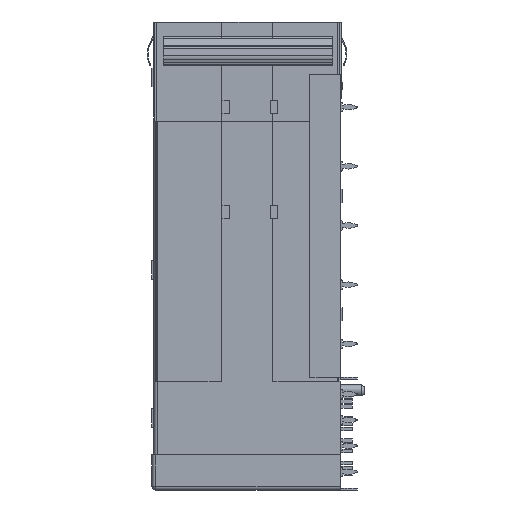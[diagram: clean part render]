
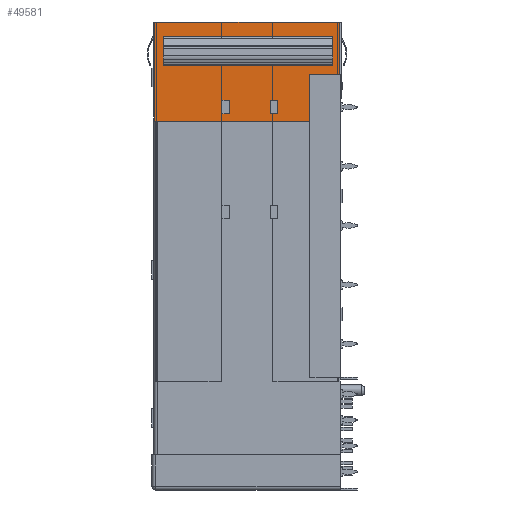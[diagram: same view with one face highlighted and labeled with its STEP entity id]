
A CAD part, left-side view. The second image highlights one B-rep face of the part: STEP entity #49581.
In plain terms, the highlighted planar face has unit normal (-1, 0, 0).
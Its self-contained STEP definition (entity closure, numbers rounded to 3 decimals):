
#1392 = LINE ( 'NONE', #50366, #72783 ) ;
#6201 = ORIENTED_EDGE ( 'NONE', *, *, #125140, .T. ) ;
#7291 = DIRECTION ( 'NONE',  ( 0., 1., 0. ) ) ;
#8539 = CARTESIAN_POINT ( 'NONE',  ( -57.25, 25.2, -13.4 ) ) ;
#8551 = DIRECTION ( 'NONE',  ( 0., -1., 0. ) ) ;
#9072 = DIRECTION ( 'NONE',  ( 0., 0., -1. ) ) ;
#9386 = ORIENTED_EDGE ( 'NONE', *, *, #65394, .T. ) ;
#9693 = VECTOR ( 'NONE', #117136, 1000. ) ;
#11368 = VERTEX_POINT ( 'NONE', #149074 ) ;
#13703 = EDGE_CURVE ( 'NONE', #49800, #25958, #170180, .T. ) ;
#18241 = EDGE_CURVE ( 'NONE', #96966, #96336, #1392, .T. ) ;
#18391 = LINE ( 'NONE', #20154, #9693 ) ;
#19315 = VERTEX_POINT ( 'NONE', #128834 ) ;
#20154 = CARTESIAN_POINT ( 'NONE',  ( -57.25, 0.1, 0. ) ) ;
#23709 = DIRECTION ( 'NONE',  ( 0., 0., -1. ) ) ;
#24922 = VERTEX_POINT ( 'NONE', #77236 ) ;
#25958 = VERTEX_POINT ( 'NONE', #172694 ) ;
#29176 = FACE_BOUND ( 'NONE', #95350, .T. ) ;
#31801 = ORIENTED_EDGE ( 'NONE', *, *, #156821, .F. ) ;
#33618 = LINE ( 'NONE', #106545, #103060 ) ;
#35422 = VECTOR ( 'NONE', #159093, 1000. ) ;
#37736 = CARTESIAN_POINT ( 'NONE',  ( -57.25, 4.1, 0. ) ) ;
#37792 = VECTOR ( 'NONE', #127473, 1000. ) ;
#39500 = VERTEX_POINT ( 'NONE', #112164 ) ;
#40035 = CARTESIAN_POINT ( 'NONE',  ( -57.25, 0., 0. ) ) ;
#41370 = VECTOR ( 'NONE', #169709, 1000. ) ;
#41810 = VERTEX_POINT ( 'NONE', #82771 ) ;
#41812 = DIRECTION ( 'NONE',  ( 0., 1., 0. ) ) ;
#42209 = FACE_BOUND ( 'NONE', #84068, .T. ) ;
#42881 = VERTEX_POINT ( 'NONE', #175143 ) ;
#43011 = CARTESIAN_POINT ( 'NONE',  ( -57.25, 1.05, -1.9 ) ) ;
#45799 = CARTESIAN_POINT ( 'NONE',  ( -57.25, 15., -12.4 ) ) ;
#45998 = EDGE_CURVE ( 'NONE', #25958, #41810, #90966, .T. ) ;
#47557 = CARTESIAN_POINT ( 'NONE',  ( -57.25, 0.1, -7.1 ) ) ;
#47695 = ORIENTED_EDGE ( 'NONE', *, *, #13703, .T. ) ;
#47733 = CARTESIAN_POINT ( 'NONE',  ( -57.25, 16., -12.4 ) ) ;
#47820 = LINE ( 'NONE', #43011, #41370 ) ;
#49132 = CARTESIAN_POINT ( 'NONE',  ( -57.25, 0., -10.6 ) ) ;
#49581 = ADVANCED_FACE ( 'NONE', ( #29176, #178719, #42209, #85496 ), #123079, .F. ) ;
#49702 = DIRECTION ( 'NONE',  ( 0., -1., 0. ) ) ;
#49800 = VERTEX_POINT ( 'NONE', #57554 ) ;
#50366 = CARTESIAN_POINT ( 'NONE',  ( -57.25, 25.3, 0. ) ) ;
#57554 = CARTESIAN_POINT ( 'NONE',  ( -57.25, 9.45, -10.6 ) ) ;
#58317 = ORIENTED_EDGE ( 'NONE', *, *, #66438, .T. ) ;
#58970 = CARTESIAN_POINT ( 'NONE',  ( -57.25, 0., -10.6 ) ) ;
#60969 = VERTEX_POINT ( 'NONE', #156319 ) ;
#65338 = ORIENTED_EDGE ( 'NONE', *, *, #158825, .T. ) ;
#65394 = EDGE_CURVE ( 'NONE', #39500, #161815, #33618, .T. ) ;
#66438 = EDGE_CURVE ( 'NONE', #161815, #68934, #176194, .T. ) ;
#67315 = CARTESIAN_POINT ( 'NONE',  ( -57.25, 25.1, -13.4 ) ) ;
#67378 = LINE ( 'NONE', #37736, #149859 ) ;
#68934 = VERTEX_POINT ( 'NONE', #47733 ) ;
#69747 = LINE ( 'NONE', #118174, #84869 ) ;
#71567 = EDGE_LOOP ( 'NONE', ( #107711, #155128, #9386, #58317 ) ) ;
#72783 = VECTOR ( 'NONE', #146733, 1000. ) ;
#73691 = CARTESIAN_POINT ( 'NONE',  ( -57.25, 4.1, -13.4 ) ) ;
#75549 = EDGE_CURVE ( 'NONE', #174587, #19315, #47820, .T. ) ;
#77236 = CARTESIAN_POINT ( 'NONE',  ( -57.25, 4.1, -7.1 ) ) ;
#77396 = LINE ( 'NONE', #163925, #90649 ) ;
#78575 = DIRECTION ( 'NONE',  ( 0., 0., -1. ) ) ;
#81360 = CARTESIAN_POINT ( 'NONE',  ( -57.25, 0., -7.1 ) ) ;
#82771 = CARTESIAN_POINT ( 'NONE',  ( -57.25, 8.45, -12.4 ) ) ;
#83713 = CARTESIAN_POINT ( 'NONE',  ( -57.25, 1.05, -1.9 ) ) ;
#84068 = EDGE_LOOP ( 'NONE', ( #31801, #112379, #166149, #158611 ) ) ;
#84348 = LINE ( 'NONE', #118787, #127722 ) ;
#84684 = EDGE_CURVE ( 'NONE', #11368, #39500, #135741, .T. ) ;
#84869 = VECTOR ( 'NONE', #7291, 1000. ) ;
#85496 = FACE_OUTER_BOUND ( 'NONE', #111296, .T. ) ;
#87005 = DIRECTION ( 'NONE',  ( 0., 0., -1. ) ) ;
#90649 = VECTOR ( 'NONE', #108201, 1000. ) ;
#90966 = LINE ( 'NONE', #129489, #121407 ) ;
#91176 = LINE ( 'NONE', #142122, #101999 ) ;
#93921 = VECTOR ( 'NONE', #49702, 1000. ) ;
#95350 = EDGE_LOOP ( 'NONE', ( #164573, #47695, #143128, #106527 ) ) ;
#96336 = VERTEX_POINT ( 'NONE', #145768 ) ;
#96966 = VERTEX_POINT ( 'NONE', #118344 ) ;
#101999 = VECTOR ( 'NONE', #154905, 1000. ) ;
#103060 = VECTOR ( 'NONE', #78575, 1000. ) ;
#106527 = ORIENTED_EDGE ( 'NONE', *, *, #131854, .T. ) ;
#106545 = CARTESIAN_POINT ( 'NONE',  ( -57.25, 15., 0. ) ) ;
#107711 = ORIENTED_EDGE ( 'NONE', *, *, #126310, .T. ) ;
#108201 = DIRECTION ( 'NONE',  ( 0., 1., 0. ) ) ;
#108682 = DIRECTION ( 'NONE',  ( 0., -1., 0. ) ) ;
#109393 = ORIENTED_EDGE ( 'NONE', *, *, #145753, .T. ) ;
#110262 = LINE ( 'NONE', #113841, #164505 ) ;
#111296 = EDGE_LOOP ( 'NONE', ( #143637, #123328, #6201, #116406, #109393, #65338 ) ) ;
#112164 = CARTESIAN_POINT ( 'NONE',  ( -57.25, 15., -10.6 ) ) ;
#112379 = ORIENTED_EDGE ( 'NONE', *, *, #75549, .T. ) ;
#113841 = CARTESIAN_POINT ( 'NONE',  ( -57.25, 9.45, 0. ) ) ;
#114778 = CARTESIAN_POINT ( 'NONE',  ( -57.25, 9.45, -12.4 ) ) ;
#116406 = ORIENTED_EDGE ( 'NONE', *, *, #18241, .T. ) ;
#117136 = DIRECTION ( 'NONE',  ( 0., 0., 1. ) ) ;
#118113 = VERTEX_POINT ( 'NONE', #47557 ) ;
#118174 = CARTESIAN_POINT ( 'NONE',  ( -57.25, 1.05, -2.181 ) ) ;
#118344 = CARTESIAN_POINT ( 'NONE',  ( -57.25, 0.1, 0. ) ) ;
#118787 = CARTESIAN_POINT ( 'NONE',  ( -57.25, 25.1, 0. ) ) ;
#121407 = VECTOR ( 'NONE', #87005, 1000. ) ;
#122039 = EDGE_CURVE ( 'NONE', #131663, #24922, #67378, .T. ) ;
#123079 = PLANE ( 'NONE',  #138767 ) ;
#123328 = ORIENTED_EDGE ( 'NONE', *, *, #168208, .T. ) ;
#125140 = EDGE_CURVE ( 'NONE', #118113, #96966, #18391, .T. ) ;
#126310 = EDGE_CURVE ( 'NONE', #68934, #11368, #141677, .T. ) ;
#127473 = DIRECTION ( 'NONE',  ( 0., -1., 0. ) ) ;
#127722 = VECTOR ( 'NONE', #9072, 1000. ) ;
#128834 = CARTESIAN_POINT ( 'NONE',  ( -57.25, 1.05, -2.181 ) ) ;
#129234 = DIRECTION ( 'NONE',  ( 0., 1., 0. ) ) ;
#129489 = CARTESIAN_POINT ( 'NONE',  ( -57.25, 8.45, 0. ) ) ;
#131663 = VERTEX_POINT ( 'NONE', #73691 ) ;
#131854 = EDGE_CURVE ( 'NONE', #41810, #174234, #77396, .T. ) ;
#135741 = LINE ( 'NONE', #49132, #159612 ) ;
#136197 = EDGE_CURVE ( 'NONE', #174234, #49800, #110262, .T. ) ;
#138767 = AXIS2_PLACEMENT_3D ( 'NONE', #40035, #164905, #23709 ) ;
#140266 = CARTESIAN_POINT ( 'NONE',  ( -57.25, 16., 0. ) ) ;
#140444 = DIRECTION ( 'NONE',  ( 0., 0., 1. ) ) ;
#141677 = LINE ( 'NONE', #140266, #35422 ) ;
#142122 = CARTESIAN_POINT ( 'NONE',  ( -57.25, 23.95, -1.9 ) ) ;
#143128 = ORIENTED_EDGE ( 'NONE', *, *, #45998, .T. ) ;
#143637 = ORIENTED_EDGE ( 'NONE', *, *, #122039, .T. ) ;
#143927 = LINE ( 'NONE', #83713, #152628 ) ;
#145753 = EDGE_CURVE ( 'NONE', #96336, #174561, #84348, .T. ) ;
#145768 = CARTESIAN_POINT ( 'NONE',  ( -57.25, 25.1, 0. ) ) ;
#146733 = DIRECTION ( 'NONE',  ( 0., 1., 0. ) ) ;
#146931 = EDGE_CURVE ( 'NONE', #42881, #60969, #91176, .T. ) ;
#147591 = LINE ( 'NONE', #81360, #175759 ) ;
#149074 = CARTESIAN_POINT ( 'NONE',  ( -57.25, 16., -10.6 ) ) ;
#149154 = EDGE_CURVE ( 'NONE', #19315, #60969, #69747, .T. ) ;
#149859 = VECTOR ( 'NONE', #163815, 1000. ) ;
#152401 = VECTOR ( 'NONE', #41812, 1000. ) ;
#152628 = VECTOR ( 'NONE', #129234, 1000. ) ;
#153946 = CARTESIAN_POINT ( 'NONE',  ( -57.25, 0., -12.4 ) ) ;
#154905 = DIRECTION ( 'NONE',  ( 0., 0., -1. ) ) ;
#155128 = ORIENTED_EDGE ( 'NONE', *, *, #84684, .T. ) ;
#156319 = CARTESIAN_POINT ( 'NONE',  ( -57.25, 23.95, -2.181 ) ) ;
#156821 = EDGE_CURVE ( 'NONE', #174587, #42881, #143927, .T. ) ;
#158611 = ORIENTED_EDGE ( 'NONE', *, *, #146931, .F. ) ;
#158825 = EDGE_CURVE ( 'NONE', #174561, #131663, #169803, .T. ) ;
#159093 = DIRECTION ( 'NONE',  ( 0., 0., 1. ) ) ;
#159612 = VECTOR ( 'NONE', #8551, 1000. ) ;
#161815 = VERTEX_POINT ( 'NONE', #45799 ) ;
#163815 = DIRECTION ( 'NONE',  ( 0., 0., 1. ) ) ;
#163925 = CARTESIAN_POINT ( 'NONE',  ( -57.25, 0., -12.4 ) ) ;
#164505 = VECTOR ( 'NONE', #140444, 1000. ) ;
#164573 = ORIENTED_EDGE ( 'NONE', *, *, #136197, .T. ) ;
#164905 = DIRECTION ( 'NONE',  ( 1., 0., 0. ) ) ;
#166149 = ORIENTED_EDGE ( 'NONE', *, *, #149154, .T. ) ;
#168208 = EDGE_CURVE ( 'NONE', #24922, #118113, #147591, .T. ) ;
#169709 = DIRECTION ( 'NONE',  ( 0., 0., -1. ) ) ;
#169803 = LINE ( 'NONE', #8539, #93921 ) ;
#170180 = LINE ( 'NONE', #58970, #37792 ) ;
#172694 = CARTESIAN_POINT ( 'NONE',  ( -57.25, 8.45, -10.6 ) ) ;
#174234 = VERTEX_POINT ( 'NONE', #114778 ) ;
#174561 = VERTEX_POINT ( 'NONE', #67315 ) ;
#174587 = VERTEX_POINT ( 'NONE', #177641 ) ;
#175143 = CARTESIAN_POINT ( 'NONE',  ( -57.25, 23.95, -1.9 ) ) ;
#175759 = VECTOR ( 'NONE', #108682, 1000. ) ;
#176194 = LINE ( 'NONE', #153946, #152401 ) ;
#177641 = CARTESIAN_POINT ( 'NONE',  ( -57.25, 1.05, -1.9 ) ) ;
#178719 = FACE_BOUND ( 'NONE', #71567, .T. ) ;
